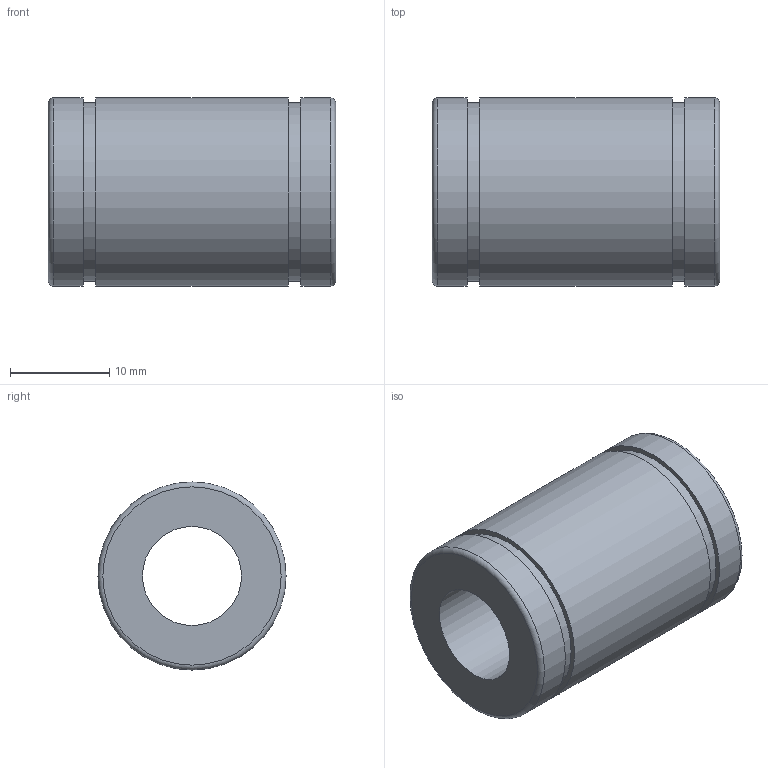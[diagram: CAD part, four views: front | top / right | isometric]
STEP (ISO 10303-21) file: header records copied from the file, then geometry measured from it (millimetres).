
FILE_DESCRIPTION(('STEP AP203'),'1');
FILE_NAME('//192.168.1.1/share/s-4 技術開発/s-4-13_CAD/03_見直し済み/001 修正済み/N/N_TOP/N-10.step','2020-03-17T00:37:22',(' '),(' '),'Spatial InterOp 3D',' ',' ');
FILE_SCHEMA(('CONFIG_CONTROL_DESIGN'));
Length unit declared in the file: millimetre
Products named in the file (1): 1
Bounding box: 29 x 19 x 19 mm (x, y, z)
Volume: 5862.8 mm3; surface area: 3134.3 mm2
Topology: 1 solids, 1 shells, 14 faces, 25 edges, 17 vertices
Faces by surface type: cylinder 6, plane 6, torus 2
Full cylindrical faces by diameter (mm): 10 x1, 18 x2, 19 x3
Entity records: 332 total; most frequent: DIRECTION 58, CARTESIAN_POINT 43, AXIS2_PLACEMENT_3D 29, EDGE_LOOP 28, ORIENTED_EDGE 28, FACE_OUTER_BOUND 22, ADVANCED_FACE 14, EDGE_CURVE 14
